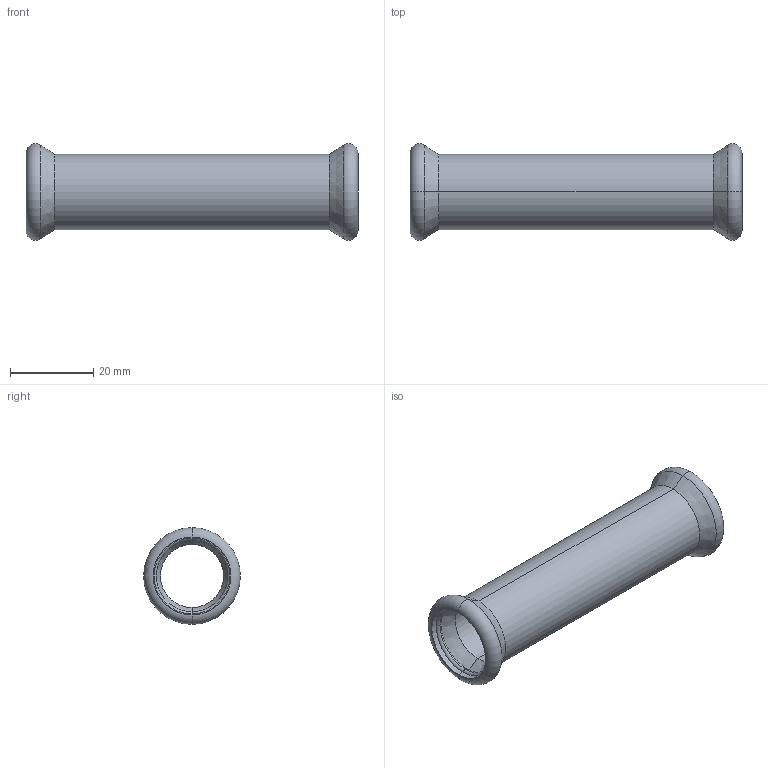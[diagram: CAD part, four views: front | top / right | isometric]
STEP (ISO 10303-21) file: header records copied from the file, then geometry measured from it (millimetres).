
FILE_DESCRIPTION (( 'STEP AP214' ), '1' );
FILE_NAME ('S15000K.STEP', '2025-08-17T07:32:21', ( '' ), ( '' ), 'SwSTEP 2.0', 'SolidWorks 2020', '' );
FILE_SCHEMA (( 'AUTOMOTIVE_DESIGN' ));
Length unit declared in the file: millimetre
Products named in the file (1): S15000K
Bounding box: 80 x 23.29 x 23.29 mm (x, y, z)
Volume: 6912.1 mm3; surface area: 9266.2 mm2
Topology: 1 solids, 1 shells, 32 faces, 64 edges, 36 vertices
Faces by surface type: torus 12, cone 8, cylinder 8, plane 4
Entity records: 1138 total; most frequent: DIRECTION 178, CARTESIAN_POINT 133, ORIENTED_EDGE 128, AXIS2_PLACEMENT_3D 81, EDGE_CURVE 64, CIRCLE 48, EDGE_LOOP 36, VERTEX_POINT 36
